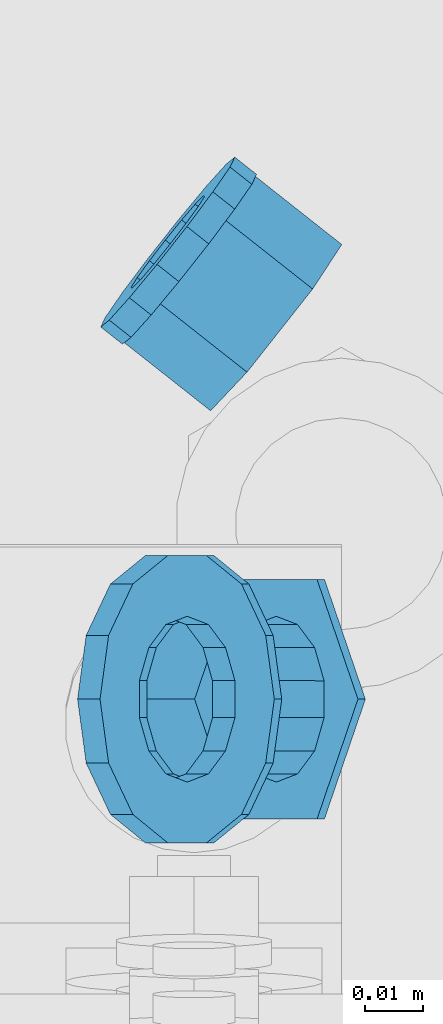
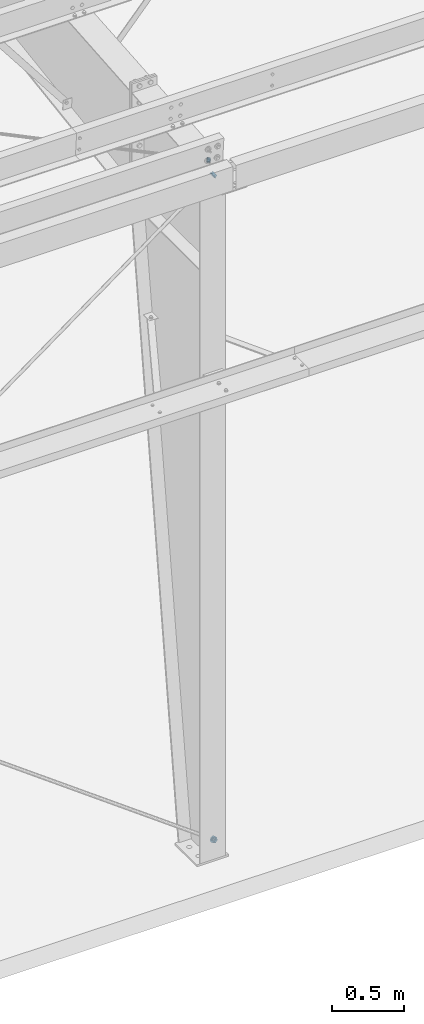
# One storey, part 27 of 185: 4 members, 2 beams, 6 elements without a shape of their own.
"""IFC2X3 building model written with IfcOpenShell, lengths in millimetres."""

from ifc_helpers import new_model, si_unit, frame, origin_with_axes, place, context, subcontext, project, spatial, polyline, outline, extrude, material, type_object, element, aggregate, save


model = new_model("IFC2X3")

# Units and contexts
model_context = context("Model", 3, precision=1e-05, world=origin_with_axes())
body_context = subcontext(model_context, "Body", "Model", "MODEL_VIEW")
ifc_project = project(units=[si_unit("LENGTHUNIT", "METRE", prefix="MILLI"), si_unit("AREAUNIT", "SQUARE_METRE"), si_unit("VOLUMEUNIT", "CUBIC_METRE"), si_unit("MASSUNIT", "GRAM", prefix="KILO"), si_unit("TIMEUNIT", "SECOND"), si_unit("PLANEANGLEUNIT", "RADIAN"), si_unit("SOLIDANGLEUNIT", "STERADIAN"), si_unit("THERMODYNAMICTEMPERATUREUNIT", "DEGREE_CELSIUS"), si_unit("LUMINOUSINTENSITYUNIT", "LUMEN")], contexts=[model_context])

# Site, building, storey
site_placement = place(None, origin_with_axes())
site = spatial("IfcSite", under=ifc_project, at=site_placement, Name="Undefined", CompositionType="ELEMENT")
building_placement = place(site_placement, origin_with_axes())
building = spatial("IfcBuilding", under=site, at=building_placement, Name="Undefined", CompositionType="ELEMENT")
storey_placement = place(building_placement, origin_with_axes())
storey = spatial("IfcBuildingStorey", under=building, at=storey_placement, Name="Undefined", CompositionType="ELEMENT", Elevation=0.0)

# Assembly, member
assembly_1_placement = place(storey_placement, origin_with_axes())
assembly_1 = element("IfcElementAssembly", 1, at=assembly_1_placement, inside=storey, Name="Steel Assembly", AssemblyPlace="NOTDEFINED", PredefinedType="RIGID_FRAME")
ifc_material = material(Name="STEEL/55")
member_type_1 = type_object("IfcMemberType", Name="1_HEAVY_HEX_NUT", PredefinedType="NOTDEFINED")
member_1_placement = place(assembly_1_placement, frame((14897.2037239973, 363.473999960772, 140.252803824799), z_axis=(8.1869000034e-05, 0.999999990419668, 0.00011161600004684), x_axis=(0.806343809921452, 0.0, -0.59144708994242)))
member_1 = element("IfcMember", 2, at=member_1_placement, type_object=member_type_1, material=ifc_material, Name="1 H HEX NUT A563", ObjectType="1_HEAVY_HEX_NUT", context=body_context, shape_type="SweptSolid", body=[
    extrude(outline(polyline([(-11.909999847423, 20.620000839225), (11.9099998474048, 20.6200008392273), (23.8099994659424, -4.9453774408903e-12), (11.9099998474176, -20.6200008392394), (-11.9099998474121, -20.6200008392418), (-23.8099994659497, -9.49285094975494e-12), (-11.909999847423, 20.620000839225)]), holes=[polyline([(11.1723718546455, -8.90966924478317), (13.9317198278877, -3.17982413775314), (13.9317198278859, 3.17982413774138), (11.17237185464, 8.9096692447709), (6.20019861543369, 12.8748450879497), (-5.45696821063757e-12, 14.2899999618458), (-6.20019861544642, 12.8748450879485), (-11.1723718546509, 8.90966924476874), (-13.931719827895, 3.17982413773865), (-13.9317198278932, -3.17982413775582), (-11.1723718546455, -8.90966924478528), (-6.20019861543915, -12.8748450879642), (0.0, -14.2899999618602), (6.20019861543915, -12.874845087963), (11.1723718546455, -8.90966924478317)])]), frame((19.0500000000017, 0.0, 2.58175642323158e-19), z_axis=(-1.0, 0.0, 0.0), x_axis=(0.0, -1.0, 0.0)), (0.0, 0.0, 1.0), 19.1),
])
aggregate(assembly_1, [member_1])

assembly_2_placement = place(storey_placement, origin_with_axes())
assembly_2 = element("IfcElementAssembly", 3, at=assembly_2_placement, inside=storey, Name="Steel Assembly", AssemblyPlace="NOTDEFINED", PredefinedType="RIGID_FRAME")
member_2_placement = place(assembly_2_placement, frame((14895.9229694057, 363.473999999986, 5784.86270078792), z_axis=(8.17930000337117e-05, -0.999999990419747, -0.000111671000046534), x_axis=(0.806329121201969, 0.0, 0.591467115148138)))
member_2 = element("IfcMember", 4, at=member_2_placement, type_object=member_type_1, material=ifc_material, Name="1 H HEX NUT A563", ObjectType="1_HEAVY_HEX_NUT", context=body_context, shape_type="SweptSolid", body=[
    extrude(outline(polyline([(-11.909999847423, 20.620000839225), (11.9099998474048, 20.6200008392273), (23.8099994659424, -4.9453774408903e-12), (11.9099998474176, -20.6200008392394), (-11.9099998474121, -20.6200008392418), (-23.8099994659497, -9.49285094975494e-12), (-11.909999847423, 20.620000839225)]), holes=[polyline([(11.1723718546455, -8.90966924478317), (13.9317198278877, -3.17982413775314), (13.9317198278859, 3.17982413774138), (11.17237185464, 8.9096692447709), (6.20019861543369, 12.8748450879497), (-5.45696821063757e-12, 14.2899999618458), (-6.20019861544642, 12.8748450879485), (-11.1723718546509, 8.90966924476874), (-13.931719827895, 3.17982413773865), (-13.9317198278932, -3.17982413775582), (-11.1723718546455, -8.90966924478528), (-6.20019861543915, -12.8748450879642), (0.0, -14.2899999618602), (6.20019861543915, -12.874845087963), (11.1723718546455, -8.90966924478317)])]), frame((19.0500000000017, 0.0, 2.58175642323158e-19), z_axis=(-1.0, 0.0, 0.0), x_axis=(0.0, -1.0, 0.0)), (0.0, 0.0, 1.0), 19.1),
])
aggregate(assembly_2, [member_2])

assembly_3_placement = place(storey_placement, origin_with_axes())
assembly_3 = element("IfcElementAssembly", 5, at=assembly_3_placement, inside=storey, Name="Steel Assembly", AssemblyPlace="NOTDEFINED", PredefinedType="RIGID_FRAME")
member_type_2 = type_object("IfcMemberType", Name="1_WASHER", PredefinedType="NOTDEFINED")
member_3_placement = place(assembly_3_placement, frame((14893.3635116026, 363.473999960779, 143.069570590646), z_axis=(8.1869000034e-05, 0.999999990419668, 0.00011161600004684), x_axis=(0.806343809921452, 0.0, -0.59144708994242)))
member_3 = element("IfcMember", 6, at=member_3_placement, type_object=member_type_2, material=ifc_material, Name="1 WASHER F844", ObjectType="1_WASHER", context=body_context, shape_type="SweptSolid", body=[
    extrude(outline(polyline([(15.8366407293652, 19.8585193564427), (22.8846089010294, 11.020646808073), (25.3999996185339, 6.25277607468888e-13), (22.8846089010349, -11.0206468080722), (15.8366407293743, -19.8585193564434), (5.6520316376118, -24.7631685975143), (-5.65203163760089, -24.7631685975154), (-15.8366407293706, -19.8585193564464), (-22.8846089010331, -11.0206468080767), (-25.3999996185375, -4.32009983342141e-12), (-22.8846089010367, 11.0206468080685), (-15.8366407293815, 19.8585193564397), (-5.65203163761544, 24.7631685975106), (5.65203163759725, 24.7631685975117), (15.8366407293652, 19.8585193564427)]), holes=[polyline([(11.1723718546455, -8.90966924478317), (13.9317198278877, -3.17982413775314), (13.9317198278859, 3.17982413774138), (11.17237185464, 8.9096692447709), (6.20019861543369, 12.8748450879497), (-5.45696821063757e-12, 14.2899999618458), (-6.20019861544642, 12.8748450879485), (-11.1723718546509, 8.90966924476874), (-13.931719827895, 3.17982413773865), (-13.9317198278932, -3.17982413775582), (-11.1723718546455, -8.90966924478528), (-6.20019861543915, -12.8748450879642), (0.0, -14.2899999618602), (6.20019861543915, -12.874845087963), (11.1723718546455, -8.90966924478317)])]), frame((4.76250000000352, 2.6437185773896e-16, 5.6843418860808e-14), z_axis=(-1.0, 0.0, 0.0), x_axis=(0.0, -1.0, 0.0)), (0.0, 0.0, 1.0), 4.8),
])
aggregate(assembly_3, [member_3])

assembly_4_placement = place(storey_placement, origin_with_axes())
assembly_4 = element("IfcElementAssembly", 7, at=assembly_4_placement, inside=storey, Name="Steel Assembly", AssemblyPlace="NOTDEFINED", PredefinedType="RIGID_FRAME")
member_4_placement = place(assembly_4_placement, frame((14892.0828276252, 363.473999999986, 5782.04583775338), z_axis=(8.17930000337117e-05, -0.999999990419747, -0.000111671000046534), x_axis=(0.806329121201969, 0.0, 0.591467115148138)))
member_4 = element("IfcMember", 8, at=member_4_placement, type_object=member_type_2, material=ifc_material, Name="1 WASHER F844", ObjectType="1_WASHER", context=body_context, shape_type="SweptSolid", body=[
    extrude(outline(polyline([(15.8366407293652, 19.8585193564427), (22.8846089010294, 11.020646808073), (25.3999996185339, 6.25277607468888e-13), (22.8846089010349, -11.0206468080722), (15.8366407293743, -19.8585193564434), (5.6520316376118, -24.7631685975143), (-5.65203163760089, -24.7631685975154), (-15.8366407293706, -19.8585193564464), (-22.8846089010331, -11.0206468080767), (-25.3999996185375, -4.32009983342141e-12), (-22.8846089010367, 11.0206468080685), (-15.8366407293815, 19.8585193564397), (-5.65203163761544, 24.7631685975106), (5.65203163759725, 24.7631685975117), (15.8366407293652, 19.8585193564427)]), holes=[polyline([(11.1723718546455, -8.90966924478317), (13.9317198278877, -3.17982413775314), (13.9317198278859, 3.17982413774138), (11.17237185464, 8.9096692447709), (6.20019861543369, 12.8748450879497), (-5.45696821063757e-12, 14.2899999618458), (-6.20019861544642, 12.8748450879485), (-11.1723718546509, 8.90966924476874), (-13.931719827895, 3.17982413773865), (-13.9317198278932, -3.17982413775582), (-11.1723718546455, -8.90966924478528), (-6.20019861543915, -12.8748450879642), (0.0, -14.2899999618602), (6.20019861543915, -12.874845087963), (11.1723718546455, -8.90966924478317)])]), frame((4.76250000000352, 2.6437185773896e-16, 5.6843418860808e-14), z_axis=(-1.0, 0.0, 0.0), x_axis=(0.0, -1.0, 0.0)), (0.0, 0.0, 1.0), 4.8),
])
aggregate(assembly_4, [member_4])

# Assembly, beam
assembly_5_placement = place(storey_placement, origin_with_axes())
assembly_5 = element("IfcElementAssembly", 9, at=assembly_5_placement, inside=storey, Name="Steel Assembly", AssemblyPlace="NOTDEFINED", PredefinedType="RIGID_FRAME")
beam_type_1 = type_object("IfcBeamType", Name="3/4_HEAVY_HEX_NUT", PredefinedType="NOTDEFINED")
beam_1_placement = place(assembly_5_placement, frame((14896.3371730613, 439.31069109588, 5869.75105185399), z_axis=(-0.0401123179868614, 0.0323893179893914, -0.998670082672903), x_axis=(0.783982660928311, -0.618638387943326, -0.0515531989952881)))
beam_1 = element("IfcBeam", 10, at=beam_1_placement, type_object=beam_type_1, material=ifc_material, Name="3/4 H HEX NUT A563", ObjectType="3/4_HEAVY_HEX_NUT", context=body_context, shape_type="SweptSolid", body=[
    extrude(outline(polyline([(9.13000011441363, -15.810000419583), (-9.13000011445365, -15.810000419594), (-18.2600002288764, 1.54614099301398e-11), (-9.13000011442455, 15.8100004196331), (9.13000011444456, 15.8100004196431), (18.2600002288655, 3.36513039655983e-11), (9.13000011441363, -15.810000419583)]), holes=[polyline([(-8.06850066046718, 6.43441456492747), (-10.061255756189, 2.29641597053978), (-10.0612557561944, -2.29641597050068), (-8.06850066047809, -6.43441456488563), (-4.47768005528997, -9.29799844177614), (-1.09139364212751e-11, -10.3199996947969), (4.47768005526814, -9.29799844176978), (8.0685006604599, -6.43441456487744), (10.0612557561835, -2.29641597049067), (10.0612557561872, 2.2964159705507), (8.06850066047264, 6.43441456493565), (4.47768005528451, 9.29799844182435), (7.27595761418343e-12, 10.319999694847), (-4.47768005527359, 9.2979984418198), (-8.06850066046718, 6.43441456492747)])]), frame((19.0500000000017, 0.0, 2.58175642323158e-19), z_axis=(-1.0, 0.0, 0.0), x_axis=(0.0, -1.0, 0.0)), (0.0, 0.0, 1.0), 19.1),
])
aggregate(assembly_5, [beam_1])

assembly_6_placement = place(storey_placement, origin_with_axes())
assembly_6 = element("IfcElementAssembly", 11, at=assembly_6_placement, inside=storey, Name="Steel Assembly", AssemblyPlace="NOTDEFINED", PredefinedType="RIGID_FRAME")
beam_type_2 = type_object("IfcBeamType", Name="3/4_WASHER", PredefinedType="NOTDEFINED")
beam_2_placement = place(assembly_6_placement, frame((14892.6034556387, 442.256956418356, 5869.99657396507), z_axis=(-0.0401123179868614, 0.0323893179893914, -0.998670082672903), x_axis=(0.783982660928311, -0.618638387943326, -0.0515531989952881)))
beam_2 = element("IfcBeam", 12, at=beam_2_placement, type_object=beam_type_2, material=ifc_material, Name="3/4 WASHER F844", ObjectType="3/4_WASHER", context=body_context, shape_type="SweptSolid", body=[
    extrude(outline(polyline([(-11.6280845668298, -14.5811568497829), (-16.8030690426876, -8.09193156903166), (-18.649999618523, -4.54747350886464e-12), (-16.8030690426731, 8.09193156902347), (-11.6280845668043, 14.5811568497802), (-4.15001533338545, 18.1824051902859), (4.15001533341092, 18.1824051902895), (11.628084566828, 14.5811568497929), (16.8030690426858, 8.09193156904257), (18.6499996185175, 1.45519152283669e-11), (16.8030690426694, -8.09193156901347), (11.6280845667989, -14.5811568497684), (4.15001533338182, -18.182405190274), (-4.15001533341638, -18.1824051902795), (-11.6280845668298, -14.5811568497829)]), holes=[polyline([(-8.06850066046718, 6.43441456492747), (-10.061255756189, 2.29641597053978), (-10.0612557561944, -2.29641597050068), (-8.06850066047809, -6.43441456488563), (-4.47768005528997, -9.29799844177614), (-1.09139364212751e-11, -10.3199996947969), (4.47768005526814, -9.29799844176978), (8.0685006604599, -6.43441456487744), (10.0612557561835, -2.29641597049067), (10.0612557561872, 2.2964159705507), (8.06850066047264, 6.43441456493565), (4.47768005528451, 9.29799844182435), (7.27595761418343e-12, 10.319999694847), (-4.47768005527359, 9.2979984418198), (-8.06850066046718, 6.43441456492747)])]), frame((4.76250000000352, 2.6437185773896e-16, 5.6843418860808e-14), z_axis=(-1.0, 0.0, 0.0), x_axis=(0.0, -1.0, 0.0)), (0.0, 0.0, 1.0), 4.8),
])
aggregate(assembly_6, [beam_2])

save(model, "model.ifc")
